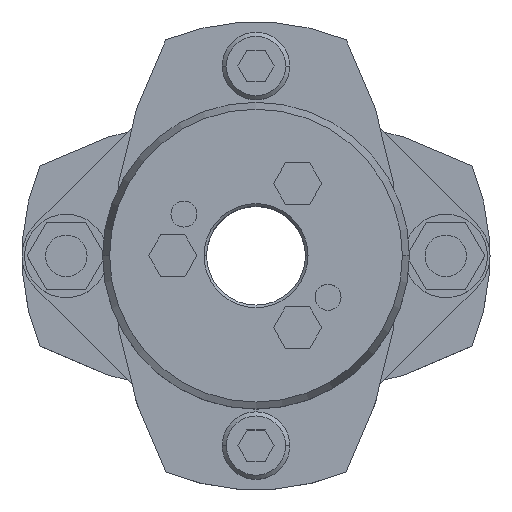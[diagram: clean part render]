
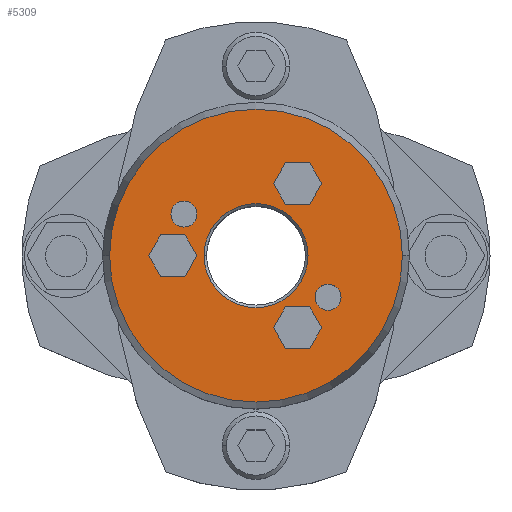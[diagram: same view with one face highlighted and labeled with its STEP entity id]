
A CAD part, top view. The second image highlights one B-rep face of the part: STEP entity #5309.
In plain terms, the highlighted planar face has unit normal (0, 0, 1).
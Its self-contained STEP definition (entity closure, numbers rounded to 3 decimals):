
#857=CARTESIAN_POINT('',(-10.,0.,39.25));
#858=VERTEX_POINT('',#857);
#874=CARTESIAN_POINT('',(10.,0.,39.25));
#875=VERTEX_POINT('',#874);
#882=CARTESIAN_POINT('',(0.,0.,39.25));
#883=DIRECTION('',(0.0,0.0,1.0));
#884=DIRECTION('',(-1.0,0.0,0.0));
#885=AXIS2_PLACEMENT_3D('',#882,#883,#884);
#886=CIRCLE('',#885,10.0);
#887=EDGE_CURVE('',#875,#858,#886,.T.);
#1045=CARTESIAN_POINT('',(28.16,0.,39.25));
#1046=VERTEX_POINT('',#1045);
#1053=CARTESIAN_POINT('',(-28.16,0.,39.25));
#1054=VERTEX_POINT('',#1053);
#1055=CARTESIAN_POINT('',(0.,0.,39.25));
#1056=DIRECTION('',(0.0,0.0,-1.0));
#1057=DIRECTION('',(1.0,0.0,0.0));
#1058=AXIS2_PLACEMENT_3D('',#1055,#1056,#1057);
#1059=CIRCLE('',#1058,28.16);
#1060=EDGE_CURVE('',#1046,#1054,#1059,.T.);
#1303=CARTESIAN_POINT('',(-16.356,8.,39.25));
#1304=VERTEX_POINT('',#1303);
#1320=CARTESIAN_POINT('',(-11.356,8.,39.25));
#1321=VERTEX_POINT('',#1320);
#1328=CARTESIAN_POINT('',(-13.856,8.,39.25));
#1329=DIRECTION('',(0.0,0.0,-1.0));
#1330=DIRECTION('',(-1.0,0.0,0.0));
#1331=AXIS2_PLACEMENT_3D('',#1328,#1329,#1330);
#1332=CIRCLE('',#1331,2.5);
#1333=EDGE_CURVE('',#1304,#1321,#1332,.T.);
#1345=CARTESIAN_POINT('',(11.356,-8.,39.25));
#1346=VERTEX_POINT('',#1345);
#1362=CARTESIAN_POINT('',(16.356,-8.,39.25));
#1363=VERTEX_POINT('',#1362);
#1370=CARTESIAN_POINT('',(13.856,-8.,39.25));
#1371=DIRECTION('',(0.0,0.0,-1.0));
#1372=DIRECTION('',(-1.0,0.0,0.0));
#1373=AXIS2_PLACEMENT_3D('',#1370,#1371,#1372);
#1374=CIRCLE('',#1373,2.5);
#1375=EDGE_CURVE('',#1346,#1363,#1374,.T.);
#3825=CARTESIAN_POINT('',(3.381,13.856,39.25));
#3826=VERTEX_POINT('',#3825);
#3833=CARTESIAN_POINT('',(5.691,9.856,39.25));
#3834=VERTEX_POINT('',#3833);
#3835=CARTESIAN_POINT('',(5.691,9.856,39.25));
#3836=DIRECTION('',(-0.5,0.866,0.0));
#3837=VECTOR('',#3836,4.619);
#3838=LINE('',#3835,#3837);
#3839=EDGE_CURVE('',#3834,#3826,#3838,.T.);
#3863=CARTESIAN_POINT('',(5.691,17.856,39.25));
#3864=VERTEX_POINT('',#3863);
#3871=CARTESIAN_POINT('',(3.381,13.856,39.25));
#3872=DIRECTION('',(0.5,0.866,0.0));
#3873=VECTOR('',#3872,4.619);
#3874=LINE('',#3871,#3873);
#3875=EDGE_CURVE('',#3826,#3864,#3874,.T.);
#3894=CARTESIAN_POINT('',(10.309,17.856,39.25));
#3895=VERTEX_POINT('',#3894);
#3902=CARTESIAN_POINT('',(5.691,17.856,39.25));
#3903=DIRECTION('',(1.0,0.0,0.0));
#3904=VECTOR('',#3903,4.619);
#3905=LINE('',#3902,#3904);
#3906=EDGE_CURVE('',#3864,#3895,#3905,.T.);
#3925=CARTESIAN_POINT('',(12.619,13.856,39.25));
#3926=VERTEX_POINT('',#3925);
#3933=CARTESIAN_POINT('',(10.309,17.856,39.25));
#3934=DIRECTION('',(0.5,-0.866,0.0));
#3935=VECTOR('',#3934,4.619);
#3936=LINE('',#3933,#3935);
#3937=EDGE_CURVE('',#3895,#3926,#3936,.T.);
#3956=CARTESIAN_POINT('',(10.309,9.856,39.25));
#3957=VERTEX_POINT('',#3956);
#3964=CARTESIAN_POINT('',(12.619,13.856,39.25));
#3965=DIRECTION('',(-0.5,-0.866,0.0));
#3966=VECTOR('',#3965,4.619);
#3967=LINE('',#3964,#3966);
#3968=EDGE_CURVE('',#3926,#3957,#3967,.T.);
#3986=CARTESIAN_POINT('',(10.309,9.856,39.25));
#3987=DIRECTION('',(-1.0,0.0,0.0));
#3988=VECTOR('',#3987,4.619);
#3989=LINE('',#3986,#3988);
#3990=EDGE_CURVE('',#3957,#3834,#3989,.T.);
#4025=CARTESIAN_POINT('',(-20.619,0.,39.25));
#4026=VERTEX_POINT('',#4025);
#4033=CARTESIAN_POINT('',(-18.309,-4.,39.25));
#4034=VERTEX_POINT('',#4033);
#4035=CARTESIAN_POINT('',(-18.309,-4.,39.25));
#4036=DIRECTION('',(-0.5,0.866,0.0));
#4037=VECTOR('',#4036,4.619);
#4038=LINE('',#4035,#4037);
#4039=EDGE_CURVE('',#4034,#4026,#4038,.T.);
#4063=CARTESIAN_POINT('',(-18.309,4.,39.25));
#4064=VERTEX_POINT('',#4063);
#4071=CARTESIAN_POINT('',(-20.619,0.,39.25));
#4072=DIRECTION('',(0.5,0.866,0.0));
#4073=VECTOR('',#4072,4.619);
#4074=LINE('',#4071,#4073);
#4075=EDGE_CURVE('',#4026,#4064,#4074,.T.);
#4094=CARTESIAN_POINT('',(-13.691,4.,39.25));
#4095=VERTEX_POINT('',#4094);
#4102=CARTESIAN_POINT('',(-18.309,4.,39.25));
#4103=DIRECTION('',(1.0,0.0,0.0));
#4104=VECTOR('',#4103,4.619);
#4105=LINE('',#4102,#4104);
#4106=EDGE_CURVE('',#4064,#4095,#4105,.T.);
#4125=CARTESIAN_POINT('',(-11.381,0.,39.25));
#4126=VERTEX_POINT('',#4125);
#4133=CARTESIAN_POINT('',(-13.691,4.,39.25));
#4134=DIRECTION('',(0.5,-0.866,0.0));
#4135=VECTOR('',#4134,4.619);
#4136=LINE('',#4133,#4135);
#4137=EDGE_CURVE('',#4095,#4126,#4136,.T.);
#4156=CARTESIAN_POINT('',(-13.691,-4.,39.25));
#4157=VERTEX_POINT('',#4156);
#4164=CARTESIAN_POINT('',(-11.381,0.,39.25));
#4165=DIRECTION('',(-0.5,-0.866,0.0));
#4166=VECTOR('',#4165,4.619);
#4167=LINE('',#4164,#4166);
#4168=EDGE_CURVE('',#4126,#4157,#4167,.T.);
#4186=CARTESIAN_POINT('',(-13.691,-4.,39.25));
#4187=DIRECTION('',(-1.0,0.0,0.0));
#4188=VECTOR('',#4187,4.619);
#4189=LINE('',#4186,#4188);
#4190=EDGE_CURVE('',#4157,#4034,#4189,.T.);
#4225=CARTESIAN_POINT('',(3.381,-13.856,39.25));
#4226=VERTEX_POINT('',#4225);
#4233=CARTESIAN_POINT('',(5.691,-17.856,39.25));
#4234=VERTEX_POINT('',#4233);
#4235=CARTESIAN_POINT('',(5.691,-17.856,39.25));
#4236=DIRECTION('',(-0.5,0.866,0.0));
#4237=VECTOR('',#4236,4.619);
#4238=LINE('',#4235,#4237);
#4239=EDGE_CURVE('',#4234,#4226,#4238,.T.);
#4263=CARTESIAN_POINT('',(5.691,-9.856,39.25));
#4264=VERTEX_POINT('',#4263);
#4271=CARTESIAN_POINT('',(3.381,-13.856,39.25));
#4272=DIRECTION('',(0.5,0.866,0.0));
#4273=VECTOR('',#4272,4.619);
#4274=LINE('',#4271,#4273);
#4275=EDGE_CURVE('',#4226,#4264,#4274,.T.);
#4294=CARTESIAN_POINT('',(10.309,-9.856,39.25));
#4295=VERTEX_POINT('',#4294);
#4302=CARTESIAN_POINT('',(5.691,-9.856,39.25));
#4303=DIRECTION('',(1.0,0.0,0.0));
#4304=VECTOR('',#4303,4.619);
#4305=LINE('',#4302,#4304);
#4306=EDGE_CURVE('',#4264,#4295,#4305,.T.);
#4325=CARTESIAN_POINT('',(12.619,-13.856,39.25));
#4326=VERTEX_POINT('',#4325);
#4333=CARTESIAN_POINT('',(10.309,-9.856,39.25));
#4334=DIRECTION('',(0.5,-0.866,0.0));
#4335=VECTOR('',#4334,4.619);
#4336=LINE('',#4333,#4335);
#4337=EDGE_CURVE('',#4295,#4326,#4336,.T.);
#4356=CARTESIAN_POINT('',(10.309,-17.856,39.25));
#4357=VERTEX_POINT('',#4356);
#4364=CARTESIAN_POINT('',(12.619,-13.856,39.25));
#4365=DIRECTION('',(-0.5,-0.866,0.0));
#4366=VECTOR('',#4365,4.619);
#4367=LINE('',#4364,#4366);
#4368=EDGE_CURVE('',#4326,#4357,#4367,.T.);
#4386=CARTESIAN_POINT('',(10.309,-17.856,39.25));
#4387=DIRECTION('',(-1.0,0.0,0.0));
#4388=VECTOR('',#4387,4.619);
#4389=LINE('',#4386,#4388);
#4390=EDGE_CURVE('',#4357,#4234,#4389,.T.);
#4416=CARTESIAN_POINT('',(13.856,-8.,39.25));
#4417=DIRECTION('',(0.0,0.0,-1.0));
#4418=DIRECTION('',(-1.0,0.0,0.0));
#4419=AXIS2_PLACEMENT_3D('',#4416,#4417,#4418);
#4420=CIRCLE('',#4419,2.5);
#4421=EDGE_CURVE('',#1363,#1346,#4420,.T.);
#4450=CARTESIAN_POINT('',(-13.856,8.,39.25));
#4451=DIRECTION('',(0.0,0.0,-1.0));
#4452=DIRECTION('',(-1.0,0.0,0.0));
#4453=AXIS2_PLACEMENT_3D('',#4450,#4451,#4452);
#4454=CIRCLE('',#4453,2.5);
#4455=EDGE_CURVE('',#1321,#1304,#4454,.T.);
#5248=CARTESIAN_POINT('',(0.,0.,39.25));
#5249=DIRECTION('',(0.0,0.0,-1.0));
#5250=DIRECTION('',(1.0,0.0,0.0));
#5251=AXIS2_PLACEMENT_3D('',#5248,#5249,#5250);
#5252=CIRCLE('',#5251,28.16);
#5253=EDGE_CURVE('',#1054,#1046,#5252,.T.);
#5258=CARTESIAN_POINT('',(-2.682,0.,39.25));
#5259=DIRECTION('',(0.0,0.0,1.0));
#5260=DIRECTION('',(-1.0,0.0,0.0));
#5261=AXIS2_PLACEMENT_3D('',#5258,#5259,#5260);
#5262=PLANE('',#5261);
#5263=ORIENTED_EDGE('',*,*,#5253,.F.);
#5264=ORIENTED_EDGE('',*,*,#1060,.F.);
#5265=EDGE_LOOP('',(#5263,#5264));
#5266=FACE_OUTER_BOUND('',#5265,.T.);
#5267=ORIENTED_EDGE('',*,*,#3839,.T.);
#5268=ORIENTED_EDGE('',*,*,#3875,.T.);
#5269=ORIENTED_EDGE('',*,*,#3906,.T.);
#5270=ORIENTED_EDGE('',*,*,#3937,.T.);
#5271=ORIENTED_EDGE('',*,*,#3968,.T.);
#5272=ORIENTED_EDGE('',*,*,#3990,.T.);
#5273=EDGE_LOOP('',(#5267,#5268,#5269,#5270,#5271,#5272));
#5274=FACE_BOUND('',#5273,.T.);
#5275=ORIENTED_EDGE('',*,*,#4039,.T.);
#5276=ORIENTED_EDGE('',*,*,#4075,.T.);
#5277=ORIENTED_EDGE('',*,*,#4106,.T.);
#5278=ORIENTED_EDGE('',*,*,#4137,.T.);
#5279=ORIENTED_EDGE('',*,*,#4168,.T.);
#5280=ORIENTED_EDGE('',*,*,#4190,.T.);
#5281=EDGE_LOOP('',(#5275,#5276,#5277,#5278,#5279,#5280));
#5282=FACE_BOUND('',#5281,.T.);
#5283=ORIENTED_EDGE('',*,*,#4239,.T.);
#5284=ORIENTED_EDGE('',*,*,#4275,.T.);
#5285=ORIENTED_EDGE('',*,*,#4306,.T.);
#5286=ORIENTED_EDGE('',*,*,#4337,.T.);
#5287=ORIENTED_EDGE('',*,*,#4368,.T.);
#5288=ORIENTED_EDGE('',*,*,#4390,.T.);
#5289=EDGE_LOOP('',(#5283,#5284,#5285,#5286,#5287,#5288));
#5290=FACE_BOUND('',#5289,.T.);
#5291=ORIENTED_EDGE('',*,*,#1375,.T.);
#5292=ORIENTED_EDGE('',*,*,#4421,.T.);
#5293=EDGE_LOOP('',(#5291,#5292));
#5294=FACE_BOUND('',#5293,.T.);
#5295=ORIENTED_EDGE('',*,*,#1333,.T.);
#5296=ORIENTED_EDGE('',*,*,#4455,.T.);
#5297=EDGE_LOOP('',(#5295,#5296));
#5298=FACE_BOUND('',#5297,.T.);
#5299=ORIENTED_EDGE('',*,*,#887,.F.);
#5300=CARTESIAN_POINT('',(0.,0.,39.25));
#5301=DIRECTION('',(0.0,0.0,1.0));
#5302=DIRECTION('',(-1.0,0.0,0.0));
#5303=AXIS2_PLACEMENT_3D('',#5300,#5301,#5302);
#5304=CIRCLE('',#5303,10.0);
#5305=EDGE_CURVE('',#858,#875,#5304,.T.);
#5306=ORIENTED_EDGE('',*,*,#5305,.F.);
#5307=EDGE_LOOP('',(#5299,#5306));
#5308=FACE_BOUND('',#5307,.T.);
#5309=ADVANCED_FACE('',(#5266,#5274,#5282,#5290,#5294,#5298,#5308),#5262,.T.);
